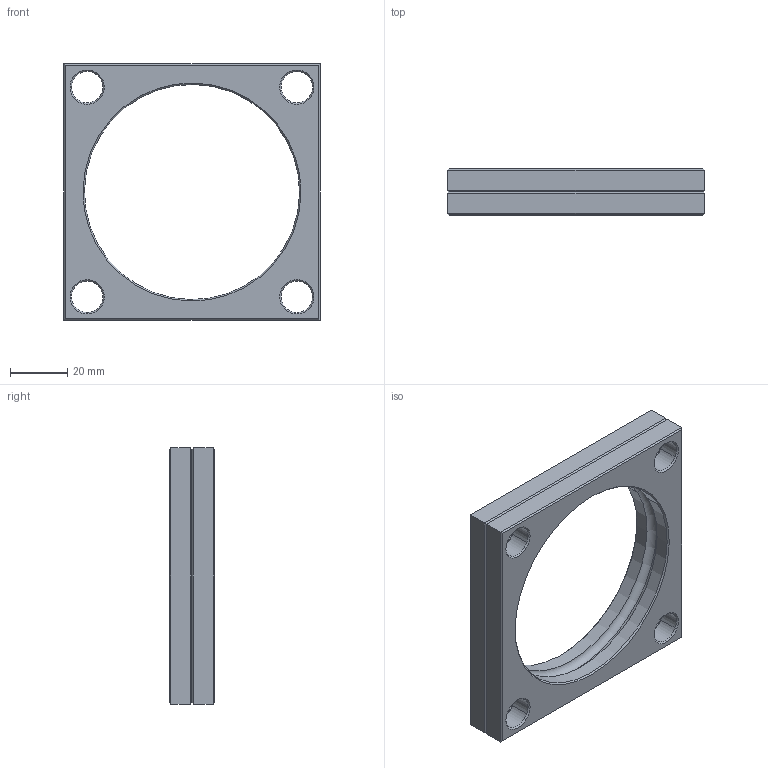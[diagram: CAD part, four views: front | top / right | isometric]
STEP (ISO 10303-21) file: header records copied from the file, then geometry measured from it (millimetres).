
FILE_DESCRIPTION(('CATIA V5 STEP Exchange'),'2;1');
FILE_NAME('W:\CATALOGO GENERAL 2018\FICHEROS CAD\023-BRIDAS\02-FSC\FSC 75.stp','2017-11-27T07:14:19+00:00',('none'),('none'),'CATIA Version 5 Release 17 (IN-10)','CATIA V5 STEP AP203','none');
FILE_SCHEMA(('CONFIG_CONTROL_DESIGN'));
Length unit declared in the file: millimetre
Products named in the file (1): BRIDA FSC75
Bounding box: 90 x 16 x 90 mm (x, y, z)
Volume: 49599.5 mm3; surface area: 18716.2 mm2
Topology: 1 solids, 1 shells, 86 faces, 182 edges, 98 vertices
Faces by surface type: cone 36, plane 26, cylinder 20, torus 4
Entity records: 2142 total; most frequent: CARTESIAN_POINT 369, ORIENTED_EDGE 364, DIRECTION 310, EDGE_CURVE 182, AXIS2_PLACEMENT_3D 147, VERTEX_POINT 98, EDGE_LOOP 96, VECTOR 92
